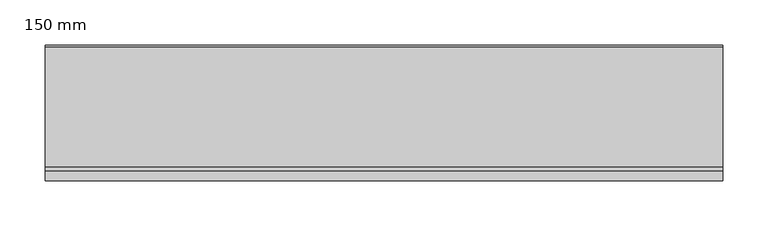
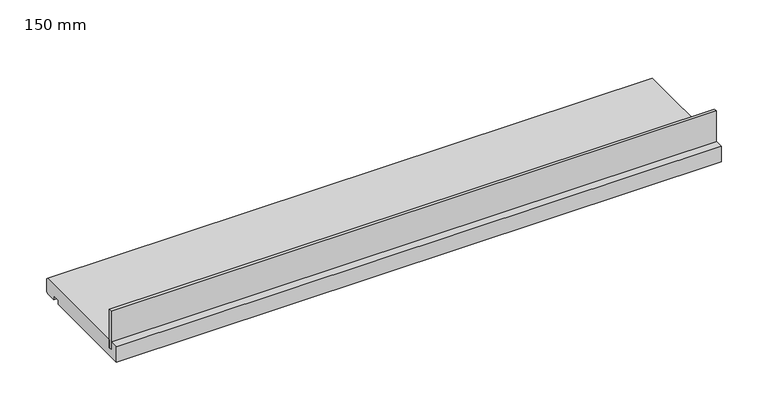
"""IFC4 building model written with IfcOpenShell, lengths in millimetres: proxy geometry, 400_35_NS_raamdorpel_kunststof_klik : 150 mm."""

from ifc_helpers import new_model, si_unit, frame, origin, place, context, project, spatial, polyline, outline, extrude, source, transform, mapped, element, save


def proxy_150_mm_ca923bcc(model_context):
    return source(origin(), model_context, "Body", "SweptSolid", [
        extrude(outline(polyline([(-375.0, 11.0), (-375.0, 15.0), (375.0, 15.0), (375.0, 11.0), (-375.0, 11.0)])), frame((0.0, 0.0, 10.0), z_axis=(0.0, 0.0, 1.0), x_axis=(1.0, 0.0, 0.0)), (0.0, 0.0, 1.0), 50.0),
        extrude(outline(polyline([(15.0, 20.0), (148.0, 20.0), (150.0, 18.0), (150.0, 2.0), (148.0, 0.0), (135.0, 0.0), (135.0, 5.0), (125.0, 5.0), (125.0, 0.0), (0.0, 0.0), (0.0, 20.0), (11.0, 20.0), (11.0, 10.0), (15.0, 10.0), (15.0, 20.0)])), frame((-375.0, 0.0, 0.0), z_axis=(1.0, 0.0, 0.0), x_axis=(0.0, 1.0, 0.0)), (0.0, 0.0, 1.0), 750.0),
    ])


if __name__ == "__main__":
    model = new_model("IFC4")
    model_context = context("Model", 3, world=origin())
    ifc_project = project(units=[si_unit("LENGTHUNIT", "METRE", prefix="MILLI")], contexts=[model_context])
    site = spatial("IfcSite", under=ifc_project)
    building = spatial("IfcBuilding", under=site)
    placement = place(None, origin())
    proxy_150_mm_shape = proxy_150_mm_ca923bcc(model_context)
    element("IfcBuildingElementProxy", 1, Name="400_35_NS_raamdorpel_kunststof_klik : 150 mm", ObjectType="400_35_NS_raamdorpel_kunststof_klik : 150 mm", at=placement, inside=building, context=model_context, shape_type="MappedRepresentation", body=[
        mapped(proxy_150_mm_shape, transform((0.0, 0.0, 0.0), x_axis=(1.0, 0.0, 0.0), y_axis=(0.0, 1.0, 0.0), z_axis=(0.0, 0.0, 1.0))),
    ])
    save(model, "model.ifc")
